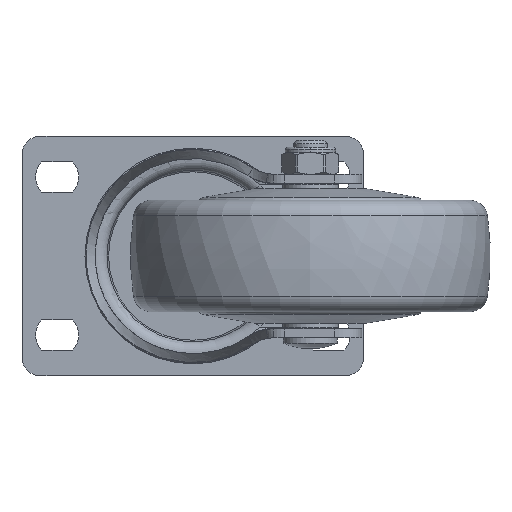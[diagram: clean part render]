
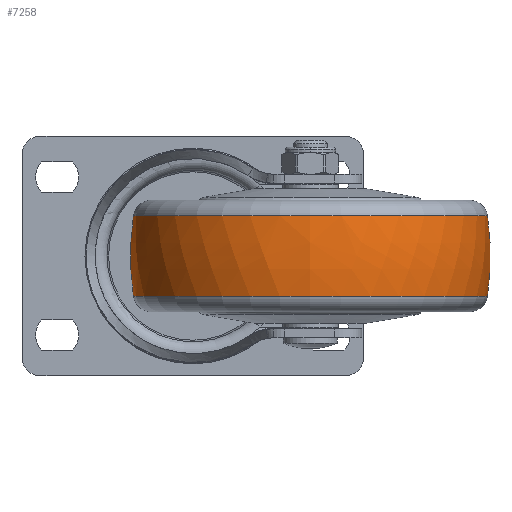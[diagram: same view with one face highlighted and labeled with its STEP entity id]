
A CAD part, front view. The second image highlights one B-rep face of the part: STEP entity #7258.
In plain terms, the highlighted free-form (B-spline) face has degree [3, 3] with [7, 4] control points.
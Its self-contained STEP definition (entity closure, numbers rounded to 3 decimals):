
#6569=CARTESIAN_POINT('',(-11.2,0.,0.));
#6570=DIRECTION('',(-1.,0.,0.));
#6571=DIRECTION('',(0.,1.,0.));
#6572=AXIS2_PLACEMENT_3D('',#6569,#6570,#6571);
#6584=CARTESIAN_POINT('',(0.,-30.,0.));
#6585=DIRECTION('',(0.,0.,1.));
#6586=DIRECTION('',(0.14,0.99,0.));
#6587=AXIS2_PLACEMENT_3D('',#6584,#6585,#6586);
#6589=CARTESIAN_POINT('',(0.,30.,0.));
#6590=DIRECTION('',(0.,0.,-1.));
#6591=DIRECTION('',(0.14,-0.99,0.));
#6592=AXIS2_PLACEMENT_3D('',#6589,#6590,#6591);
#6594=CARTESIAN_POINT('',(11.2,0.,0.));
#6595=DIRECTION('',(-1.,0.,0.));
#6596=DIRECTION('',(0.,1.,0.));
#6597=AXIS2_PLACEMENT_3D('',#6594,#6595,#6596);
#6832=CARTESIAN_POINT('',(11.2,49.212,0.));
#6834=VERTEX_POINT('',#6832);
#6835=CARTESIAN_POINT('',(-11.2,49.212,0.));
#6836=VERTEX_POINT('',#6835);
#6880=CARTESIAN_POINT('',(11.2,-49.212,
0.));
#6882=VERTEX_POINT('',#6880);
#6883=CARTESIAN_POINT('',(-11.2,-49.212,
0.));
#6884=VERTEX_POINT('',#6883);
#7222=CARTESIAN_POINT('',(-11.645,-49.051,
3.086));
#7223=CARTESIAN_POINT('',(-3.909,-50.187,
3.157));
#7224=CARTESIAN_POINT('',(3.909,-50.187,3.157));
#7225=CARTESIAN_POINT('',(11.645,-49.051,3.086));
#7226=CARTESIAN_POINT('',(-11.645,-50.95,
-27.1));
#7227=CARTESIAN_POINT('',(-3.909,-52.13,
-27.727));
#7228=CARTESIAN_POINT('',(3.909,-52.13,
-27.727));
#7229=CARTESIAN_POINT('',(11.645,-50.95,
-27.1));
#7230=CARTESIAN_POINT('',(-11.645,-30.246,
-49.148));
#7231=CARTESIAN_POINT('',(-3.909,-30.946,
-50.286));
#7232=CARTESIAN_POINT('',(3.909,-30.946,
-50.286));
#7233=CARTESIAN_POINT('',(11.645,-30.246,
-49.148));
#7234=CARTESIAN_POINT('',(-11.645,0.,
-49.148));
#7235=CARTESIAN_POINT('',(-3.909,0.,
-50.286));
#7236=CARTESIAN_POINT('',(3.909,0.,-50.286));
#7237=CARTESIAN_POINT('',(11.645,0.,
-49.148));
#7238=CARTESIAN_POINT('',(-11.645,30.246,
-49.148));
#7239=CARTESIAN_POINT('',(-3.909,30.946,
-50.286));
#7240=CARTESIAN_POINT('',(3.909,30.946,-50.286));
#7241=CARTESIAN_POINT('',(11.645,30.246,-49.148));
#7242=CARTESIAN_POINT('',(-11.645,50.95,
-27.1));
#7243=CARTESIAN_POINT('',(-3.909,52.13,
-27.727));
#7244=CARTESIAN_POINT('',(3.909,52.13,-27.727));
#7245=CARTESIAN_POINT('',(11.645,50.95,-27.1));
#7246=CARTESIAN_POINT('',(-11.645,49.051,3.086));
#7247=CARTESIAN_POINT('',(-3.909,50.187,3.157));
#7248=CARTESIAN_POINT('',(3.909,50.187,3.157));
#7249=CARTESIAN_POINT('',(11.645,49.051,3.086));
#7250=(BOUNDED_SURFACE()B_SPLINE_SURFACE(3,3,((#7222,#7223,#7224,#7225),(#7226,
#7227,#7228,#7229),(#7230,#7231,#7232,#7233),(#7234,#7235,#7236,#7237),(#7238,
#7239,#7240,#7241),(#7242,#7243,#7244,#7245),(#7246,#7247,#7248,#7249)),
.UNSPECIFIED.,.F.,.F.,.F.)B_SPLINE_SURFACE_WITH_KNOTS((4,3,4),(4,4),(0.,1.,
2.),(0.,1.),.UNSPECIFIED.)GEOMETRIC_REPRESENTATION_ITEM()RATIONAL_B_SPLINE_SURFACE(((1.194,1.185,1.185,1.194),(
0.943,0.936,0.936,0.943),(
0.943,0.936,0.936,0.943),(
1.194,1.185,1.185,1.194),(
0.943,0.936,0.936,0.943),(
0.943,0.936,0.936,0.943),(
1.194,1.185,1.185,1.194)))REPRESENTATION_ITEM('')SURFACE());
#7251=ORIENTED_EDGE('',*,*,#7212,.T.);
#7252=ORIENTED_EDGE('',*,*,#7165,.T.);
#7253=ORIENTED_EDGE('',*,*,#7216,.F.);
#7255=ORIENTED_EDGE('',*,*,#7254,.F.);
#7256=EDGE_LOOP('',(#7251,#7252,#7253,#7255));
#7257=FACE_OUTER_BOUND('',#7256,.F.);
#6573=CIRCLE('',#6572,49.212);
#6588=CIRCLE('',#6587,80.);
#6593=CIRCLE('',#6592,80.);
#6598=CIRCLE('',#6597,49.212);
#7165=EDGE_CURVE('',#6836,#6884,#6573,.T.);
#7212=EDGE_CURVE('',#6834,#6836,#6588,.T.);
#7216=EDGE_CURVE('',#6882,#6884,#6593,.T.);
#7254=EDGE_CURVE('',#6834,#6882,#6598,.T.);
#7258=ADVANCED_FACE('',(#7257),#7250,.T.);
